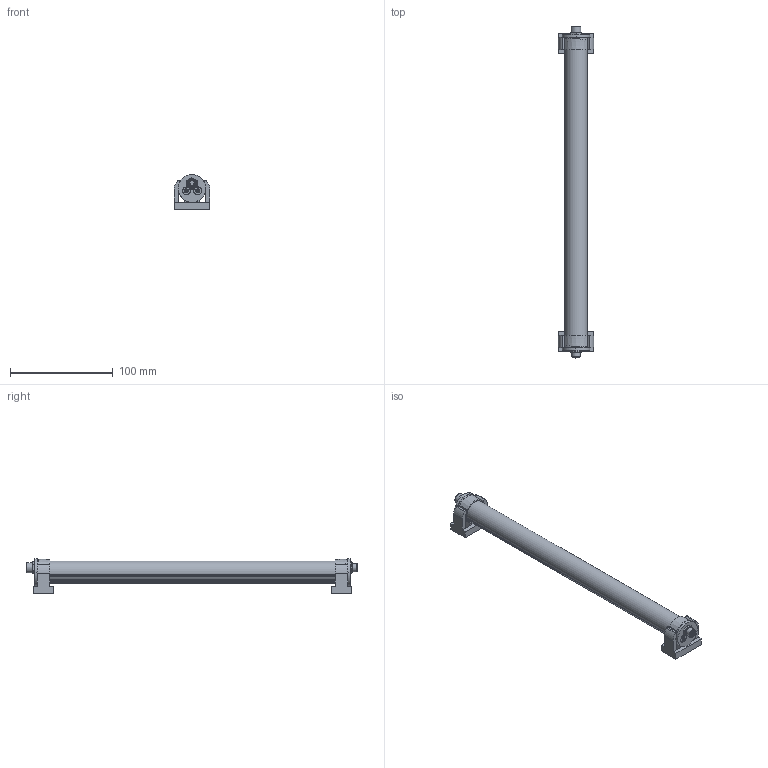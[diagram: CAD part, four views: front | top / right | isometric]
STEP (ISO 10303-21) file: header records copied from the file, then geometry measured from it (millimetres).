
FILE_DESCRIPTION(/* description */ (''),/* implementation_level */ '2;1');
FILE_NAME(/* name */ 'G:\Daten\Leuchten\06100 - LED ELN - ELN-RGBW\03 - CAD\ELN280\led-aufbauleuchte-eln-280-D.stp',/* time_stamp */ '2023-05-03T08:05:48+02:00',/* author */ ('gzahn'),/* organization */ (''),/* preprocessor_version */ 'ST-DEVELOPER v19',/* originating_system */ 'Autodesk Inventor 2023',/* authorisation */ '');
FILE_SCHEMA (('AUTOMOTIVE_DESIGN { 1 0 10303 214 3 1 1 }'));
Length unit declared in the file: millimetre
Products named in the file (1): led-aufbauleuchte-eln-280-D
Bounding box: 35 x 323.05 x 34.07 mm (x, y, z)
Volume: 127638.3 mm3; surface area: 38027.1 mm2
Topology: 1 solids, 1 shells, 536 faces, 1496 edges, 962 vertices
Faces by surface type: plane 197, cylinder 171, cone 110, bspline 54, torus 4
Full cylindrical faces by diameter (mm): 1 x4, 1.05 x4, 1.3 x4, 4.4 x2, 5.65 x1, 5.8 x1, 7 x1, 7.25 x1, 7.4 x3, 7.5 x4, 8 x1, 8.1 x2, 8.2 x1, 9.7 x1
Entity records: 21943 total; most frequent: CARTESIAN_POINT 7933, ORIENTED_EDGE 2984, DIRECTION 2664, EDGE_CURVE 1492, AXIS2_PLACEMENT_3D 1055, VERTEX_POINT 962, EDGE_LOOP 576, LINE 554
